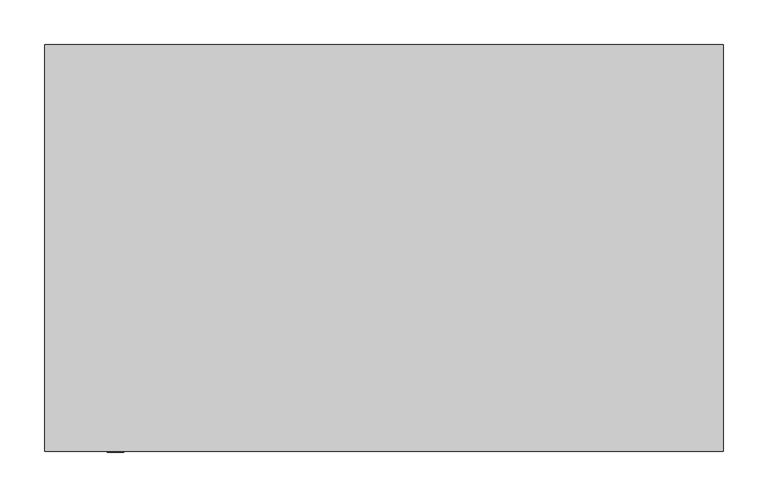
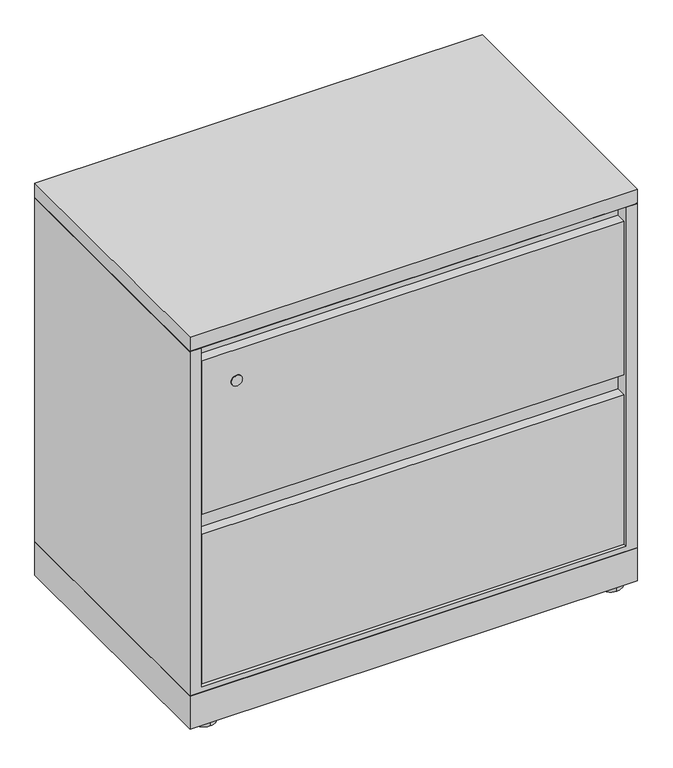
"""IFC4 building model written with IfcOpenShell, lengths in millimetres: furniture geometry, Steelcase - Universal Storage - Lateral File - 2 High - Flush Steel : 18D x 30W."""

from ifc_helpers import new_model, si_unit, point, frame, frame_2d, origin, origin_with_axes, place, context, project, spatial, polyline, circle_curve, trimmed, segment, composite_curve, outline, extrude, faceted_brep, source, transform, mapped, element, save


def furniture_2854badf(model_context):
    return source(origin(), model_context, "Body", "SolidModel", [
        extrude(outline(polyline([(762.0, 457.2), (762.0, 0.0), (0.0, 0.0), (0.0, 457.2), (762.0, 457.2)])), frame((0.0, 0.0, 685.7999516), z_axis=(0.0, 0.0, 1.0), x_axis=(1.0, 0.0, 0.0)), (0.0, 0.0, 1.0), 25.4),
        extrude(outline(polyline([(762.0, 457.2), (762.0, 0.0), (0.0, 0.0), (0.0, 457.2), (762.0, 457.2)])), frame((0.0, 0.0, 6.3500002), z_axis=(0.0, 0.0, 1.0), x_axis=(1.0, 0.0, 0.0)), (0.0, 0.0, 1.0), 59.6899998),
        extrude(outline(composite_curve([segment(trimmed(circle_curve(frame_2d((727.3290058, 434.8633666)), 20.32), [point((727.3290058, 414.5433666))], [point((727.3290058, 455.1833666))], False, "CARTESIAN"), True, "CONTINUOUS"), segment(trimmed(circle_curve(frame_2d((727.3290058, 434.8633666)), 20.32), [point((727.3290058, 455.1833666))], [point((727.3290058, 414.5433666))], False, "CARTESIAN"), True, "CONTINUOUS")], self_intersect=False)), origin_with_axes(), (0.0, 0.0, 1.0), 6.3500002),
        extrude(outline(composite_curve([segment(trimmed(circle_curve(frame_2d((727.3290058, 20.7491455)), 20.32), [point((727.3290058, 0.4291455))], [point((727.3290058, 41.0691455))], False, "CARTESIAN"), True, "CONTINUOUS"), segment(trimmed(circle_curve(frame_2d((727.3290058, 20.7491455)), 20.32), [point((727.3290058, 41.0691455))], [point((727.3290058, 0.4291455))], False, "CARTESIAN"), True, "CONTINUOUS")], self_intersect=False)), origin_with_axes(), (0.0, 0.0, 1.0), 6.3500002),
        extrude(outline(composite_curve([segment(trimmed(circle_curve(frame_2d((34.29, 434.8633666)), 20.32), [point((34.29, 455.1833666))], [point((34.29, 414.5433666))], False, "CARTESIAN"), True, "CONTINUOUS"), segment(trimmed(circle_curve(frame_2d((34.29, 434.8633666)), 20.32), [point((34.29, 414.5433666))], [point((34.29, 455.1833666))], False, "CARTESIAN"), True, "CONTINUOUS")], self_intersect=False)), origin_with_axes(), (0.0, 0.0, 1.0), 6.3500002),
        extrude(outline(composite_curve([segment(trimmed(circle_curve(frame_2d((34.29, 20.7491455)), 20.32), [point((34.29, 41.0691455))], [point((34.29, 0.4291455))], False, "CARTESIAN"), True, "CONTINUOUS"), segment(trimmed(circle_curve(frame_2d((34.29, 20.7491455)), 20.32), [point((34.29, 0.4291455))], [point((34.29, 41.0691455))], False, "CARTESIAN"), True, "CONTINUOUS")], self_intersect=False)), origin_with_axes(), (0.0, 0.0, 1.0), 6.3500002),
        extrude(outline(polyline([(437.7944128, 396.7988176), (437.7944128, 410.7687861), (440.969412, 410.7687861), (440.969412, 371.5257963), (26.822418, 371.5257963), (26.822418, 396.7988176), (437.7944128, 396.7988176)])), frame((22.0472, 0.0, 0.0), z_axis=(1.0, 0.0, 0.0), x_axis=(0.0, 1.0, 0.0)), (0.0, 0.0, 1.0), 717.9056),
        extrude(outline(polyline([(1.45e-05, 685.7999516), (457.2, 685.7999516), (456.4379879, 685.0379394), (0.7620266, 685.0379394), (1.45e-05, 685.7999516)])), frame((0.0, 0.0, 0.0), z_axis=(1.0, 0.0, 0.0), x_axis=(0.0, 1.0, 0.0)), (0.0, 0.0, 1.0), 762.0),
        faceted_brep([(762.0, 0.0, 66.04), (762.0, 457.2, 66.04), (762.0, 457.2, 685.0379394), (762.0, 0.0, 685.0379394), (0.0, 0.0, 685.0379394), (0.0, 457.2, 685.0379394), (0.0, 457.2, 66.04), (0.0, 0.0, 66.04), (742.95, 0.0, 685.0379394), (742.95, 0.0, 75.1586), (19.05, 0.0, 75.1586), (19.05, 0.0, 685.0379394), (19.05, 454.0249999, 685.0379394), (742.95, 454.0249999, 685.0379394), (19.05, 454.0249999, 75.1586), (742.95, 454.0249999, 75.1586)], [[[0, 1, 2, 3]], [[4, 5, 6, 7]], [[0, 3, 8, 9, 10, 11, 4, 7]], [[2, 1, 6, 5]], [[3, 2, 5, 4, 11, 12, 13, 8]], [[12, 14, 15, 13]], [[14, 12, 11, 10]], [[13, 15, 9, 8]], [[1, 0, 7, 6]], [[10, 9, 15, 14]]]),
        extrude(outline(polyline([(23.6541043, 79.2988025), (1.5178885, 79.2988025), (1.5178885, 348.1577823), (19.3741023, 348.1577823), (19.3741023, 378.7648167), (23.6541043, 378.7648167), (23.6541043, 79.2988025)])), frame((22.0472, 0.0, 0.0), z_axis=(1.0, 0.0, 0.0), x_axis=(0.0, 1.0, 0.0)), (0.0, 0.0, 1.0), 717.9056),
        extrude(outline(polyline([(23.6541043, 384.1241916), (1.5178885, 384.1241916), (1.5178885, 660.4), (19.3741023, 660.4), (19.3741023, 684.2759167), (23.6541043, 684.2759167), (23.6541043, 384.1241916)])), frame((22.0472, 0.0, 0.0), z_axis=(1.0, 0.0, 0.0), x_axis=(0.0, 1.0, 0.0)), (0.0, 0.0, 1.0), 717.9056),
        extrude(outline(composite_curve([segment(trimmed(circle_curve(frame_2d((606.1930374, 79.5245518)), 9.2851891), [point((606.1930374, 70.2393627))], [point((606.1930374, 88.8097409))], False, "CARTESIAN"), True, "CONTINUOUS"), segment(trimmed(circle_curve(frame_2d((606.1930374, 79.5245518)), 9.2851891), [point((606.1930374, 88.8097409))], [point((606.1930374, 70.2393627))], False, "CARTESIAN"), True, "CONTINUOUS")], self_intersect=False)), frame((0.0, -1.044398, 0.0), z_axis=(0.0, 1.0, 0.0), x_axis=(0.0, 0.0, 1.0)), (0.0, 0.0, 1.0), 1.044398),
    ])


if __name__ == "__main__":
    model = new_model("IFC4")
    model_context = context("Model", 3, world=origin())
    ifc_project = project(units=[si_unit("LENGTHUNIT", "METRE", prefix="MILLI")], contexts=[model_context])
    site = spatial("IfcSite", under=ifc_project)
    building = spatial("IfcBuilding", under=site)
    placement = place(None, origin())
    furniture_shape = furniture_2854badf(model_context)
    element("IfcFurniture", 1, ObjectType="Steelcase - Universal Storage - Lateral File - 2 High - Flush Steel : 18D x 30W", at=placement, inside=building, context=model_context, shape_type="MappedRepresentation", body=[
        mapped(furniture_shape, transform((0.0, 0.0, 0.0), x_axis=(1.0, 0.0, 0.0), y_axis=(0.0, 1.0, 0.0), z_axis=(0.0, 0.0, 1.0))),
    ])
    save(model, "model.ifc")
